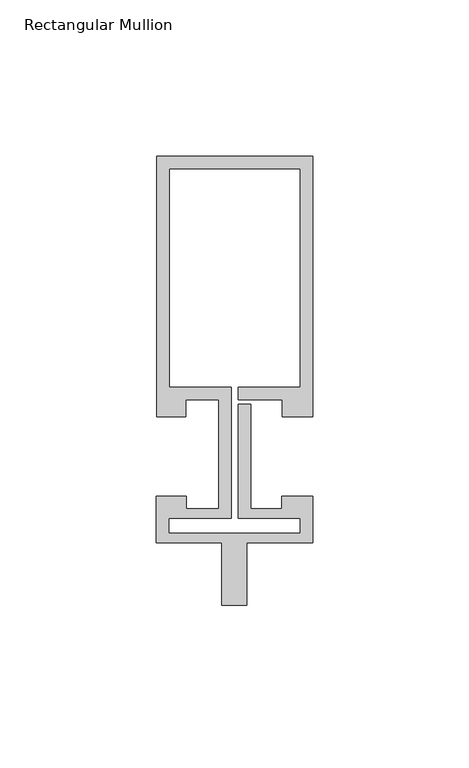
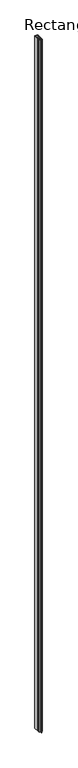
"""IFC4 building model written with IfcOpenShell, lengths in millimetres: member geometry, Rectangular Mullion : Reynaers_CW-50_Transom-Transom_83.5mm_Facecap-06A."""

from ifc_helpers import new_model, si_unit, frame, origin, place, context, project, spatial, polyline, outline, extrude, source, transform, mapped, element, save


def rectangular_mullion_4e2d26aa(model_context):
    return source(origin(), model_context, "Body", "SweptSolid", [
        extrude(outline(polyline([(25.1995941, 12.7331291), (15.499, 12.7331291), (15.499, 18.1331291), (1.2995941, 18.1331291), (1.2995941, 22.1331291), (21.1995941, 22.1331291), (21.1995941, 92.2331291), (-20.8004059, 92.2331291), (-20.8004059, 22.1331291), (-0.9004059, 22.1331291), (-0.9004059, -19.7331291), (-20.994845, -19.7331291), (-20.994845, -24.6522629), (21.1995941, -24.6522629), (21.1995941, -19.7331291), (1.2995941, -19.7331291), (1.2995941, 16.7615089), (5.2995941, 16.7615089), (5.2995941, -16.7331291), (15.2996495, -16.7331291), (15.2996495, -12.7331291), (25.1995941, -12.7331291), (25.1995941, -27.7331291), (4.004855, -27.7331291), (4.004855, -47.7331291), (-3.995145, -47.7331291), (-3.995145, -27.7331291), (-24.994845, -27.7331291), (-24.994845, -12.7331291), (-15.2996495, -12.7331291), (-15.2996495, -16.7331291), (-4.9004059, -16.7331291), (-4.9004059, 18.1331291), (-15.499, 18.1331291), (-15.499, 12.7331291), (-24.8004059, 12.7331291), (-24.8004059, 96.2331291), (25.1995941, 96.2331291), (25.1995941, 12.7331291)])), frame((0.0, 0.0, -12000.0), z_axis=(0.0, 0.0, 1.0), x_axis=(1.0, 0.0, 0.0)), (0.0, 0.0, 1.0), 12000.0),
    ])


if __name__ == "__main__":
    model = new_model("IFC4")
    model_context = context("Model", 3, world=origin())
    ifc_project = project(units=[si_unit("LENGTHUNIT", "METRE", prefix="MILLI")], contexts=[model_context])
    site = spatial("IfcSite", under=ifc_project)
    building = spatial("IfcBuilding", under=site)
    placement = place(None, origin())
    rectangular_mullion_shape = rectangular_mullion_4e2d26aa(model_context)
    element("IfcMember", 1, ObjectType="Rectangular Mullion : Reynaers_CW-50_Transom-Transom_83.5mm_Facecap-06A", at=placement, inside=building, context=model_context, shape_type="MappedRepresentation", body=[
        mapped(rectangular_mullion_shape, transform((0.0, 0.0, 0.0), x_axis=(1.0, 0.0, 0.0), y_axis=(0.0, 1.0, 0.0), z_axis=(0.0, 0.0, 1.0))),
    ])
    save(model, "model.ifc")
